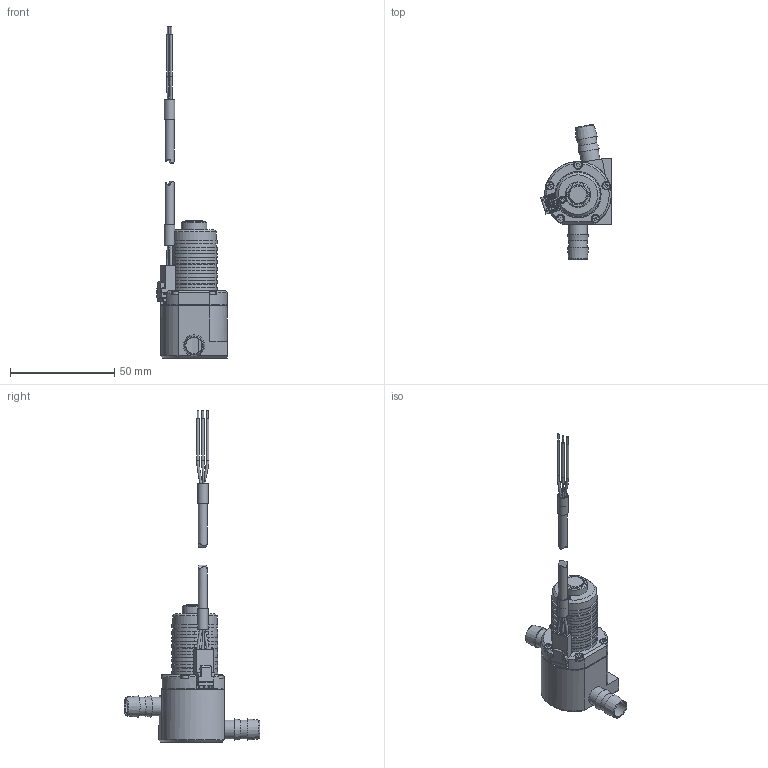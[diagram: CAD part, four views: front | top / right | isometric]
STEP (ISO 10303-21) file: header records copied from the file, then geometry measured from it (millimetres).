
FILE_DESCRIPTION (( 'STEP AP214' ), '1' );
FILE_NAME ('M510S-180-V REV 5.STEP', '2024-11-14T12:11:09', ( '' ), ( '' ), 'SwSTEP 2.0', 'SolidWorks 2023', '' );
FILE_SCHEMA (( 'AUTOMOTIVE_DESIGN' ));
Length unit declared in the file: millimetre
Products named in the file (1): M510S-180-V REV 5
Bounding box: 33.81 x 64.79 x 159.08 mm (x, y, z)
Surface area: 14075.6 mm2 (no closed solid volume)
Topology: 0 solids, 32 shells, 298 faces, 1137 edges, 868 vertices
Faces by surface type: plane 176, cylinder 67, cone 43, bspline 8, torus 4
Full cylindrical faces by diameter (mm): 0.8 x4, 1.2 x4, 2.5 x3, 3.8 x5, 4.2 x2, 4.3 x2, 5 x2, 7.8 x2, 9 x4, 9.8 x1, 12.2 x1, 21.3 x2, 22.1 x1
Entity records: 12491 total; most frequent: CARTESIAN_POINT 3305, DIRECTION 1892, ORIENTED_EDGE 1574, EDGE_CURVE 1046, VERTEX_POINT 844, LINE 662, VECTOR 662, AXIS2_PLACEMENT_3D 615
